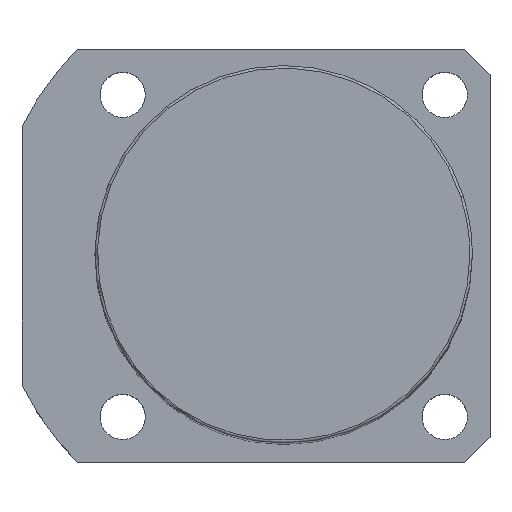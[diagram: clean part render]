
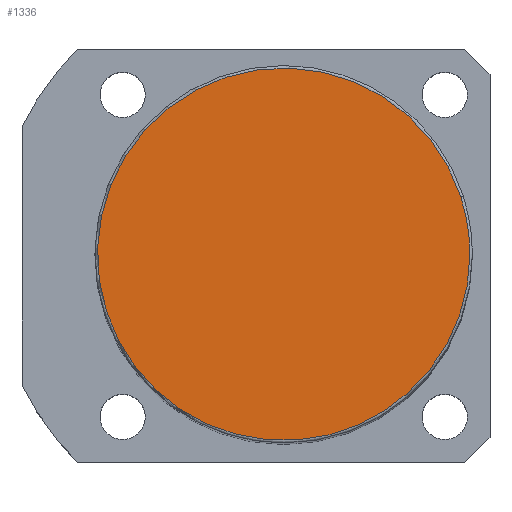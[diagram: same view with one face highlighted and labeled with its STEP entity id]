
A CAD part, top view. The second image highlights one B-rep face of the part: STEP entity #1336.
In plain terms, the highlighted planar face has unit normal (0, 0, 1).
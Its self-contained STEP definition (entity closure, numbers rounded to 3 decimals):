
#1269=CARTESIAN_POINT('',(35.189,11.434,198.0));
#1270=VERTEX_POINT('',#1269);
#1288=CARTESIAN_POINT('',(-35.189,-11.434,198.0));
#1289=VERTEX_POINT('',#1288);
#1297=CARTESIAN_POINT('',(0.0,0.0,198.0));
#1298=DIRECTION('',(0.0,0.0,1.0));
#1299=DIRECTION('',(1.0,0.0,0.0));
#1300=AXIS2_PLACEMENT_3D('',#1297,#1298,#1299);
#1301=CIRCLE('',#1300,37.0);
#1302=EDGE_CURVE('no 4000',#1270,#1289,#1301,.T.);
#1312=CARTESIAN_POINT('',(37.0,0.0,198.0));
#1313=VERTEX_POINT('',#1312);
#1314=CARTESIAN_POINT('',(0.0,0.0,198.0));
#1315=DIRECTION('',(0.0,0.0,1.0));
#1316=DIRECTION('',(1.0,0.0,0.0));
#1317=AXIS2_PLACEMENT_3D('',#1314,#1315,#1316);
#1318=CIRCLE('',#1317,37.0);
#1319=EDGE_CURVE('no 4009',#1313,#1270,#1318,.T.);
#1320=ORIENTED_EDGE('',*,*,#1319,.T.);
#1321=ORIENTED_EDGE('',*,*,#1302,.T.);
#1322=CARTESIAN_POINT('',(0.0,0.0,198.0));
#1323=DIRECTION('',(0.0,0.0,1.0));
#1324=DIRECTION('',(1.0,0.0,0.0));
#1325=AXIS2_PLACEMENT_3D('',#1322,#1323,#1324);
#1326=CIRCLE('',#1325,37.0);
#1327=EDGE_CURVE('no 4015',#1289,#1313,#1326,.T.);
#1328=ORIENTED_EDGE('',*,*,#1327,.T.);
#1329=EDGE_LOOP('',(#1320,#1321,#1328));
#1330=FACE_OUTER_BOUND('',#1329,.T.);
#1331=CARTESIAN_POINT('',(0.0,0.0,198.0));
#1332=DIRECTION('',(0.0,0.0,1.0));
#1333=DIRECTION('',(1.0,0.0,0.0));
#1334=AXIS2_PLACEMENT_3D('',#1331,#1332,#1333);
#1335=PLANE('',#1334);
#1336=ADVANCED_FACE('no 4002',(#1330),#1335,.T.);
